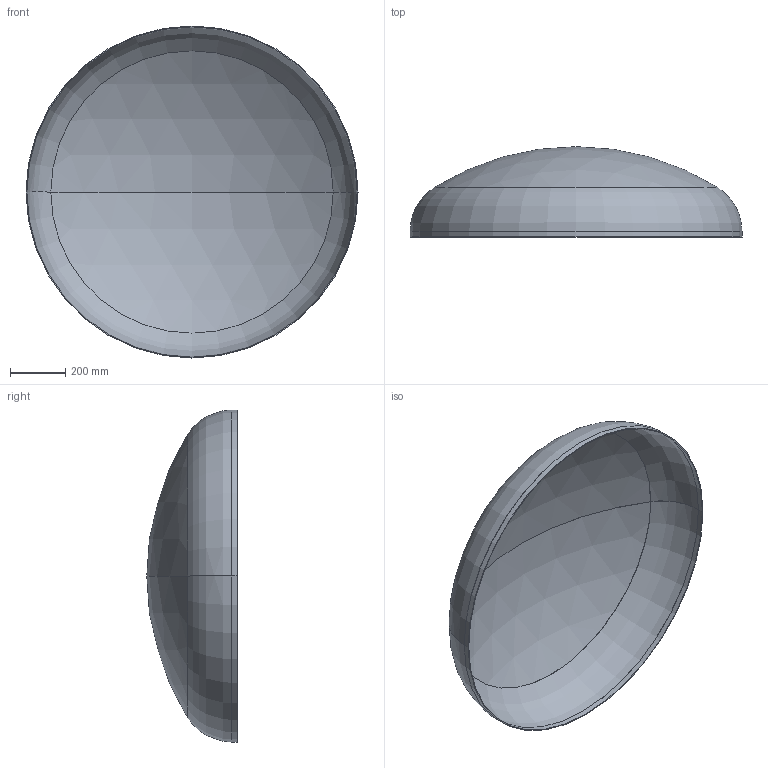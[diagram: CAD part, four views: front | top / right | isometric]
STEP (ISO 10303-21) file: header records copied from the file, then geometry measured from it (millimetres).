
FILE_DESCRIPTION (( 'STEP AP203' ), '1' );
FILE_NAME ('DIN 28013 Korbbogenform_-_Boden DIN 28013 - 1200 x 20 - I - s=3.step', '2016-07-01T09:18:49', ( '' ), ( '' ), 'SwSTEP 2.0', 'SolidWorks 2013', '' );
FILE_SCHEMA (( 'CONFIG_CONTROL_DESIGN' ));
Length unit declared in the file: millimetre
Products named in the file (1): DIN 28013 Korbbogenform_-_Boden DIN 28013 - 1200 x 20 - I - s=3
Bounding box: 1200 x 326.58 x 1200 mm (x, y, z)
Volume: 4910629.8 mm3; surface area: 3285052.2 mm2
Topology: 1 solids, 1 shells, 13 faces, 24 edges, 14 vertices
Faces by surface type: torus 4, cylinder 4, sphere 4, plane 1
Entity records: 407 total; most frequent: DIRECTION 72, CARTESIAN_POINT 52, ORIENTED_EDGE 48, AXIS2_PLACEMENT_3D 34, EDGE_CURVE 24, CIRCLE 20, VERTEX_POINT 14, EDGE_LOOP 14
